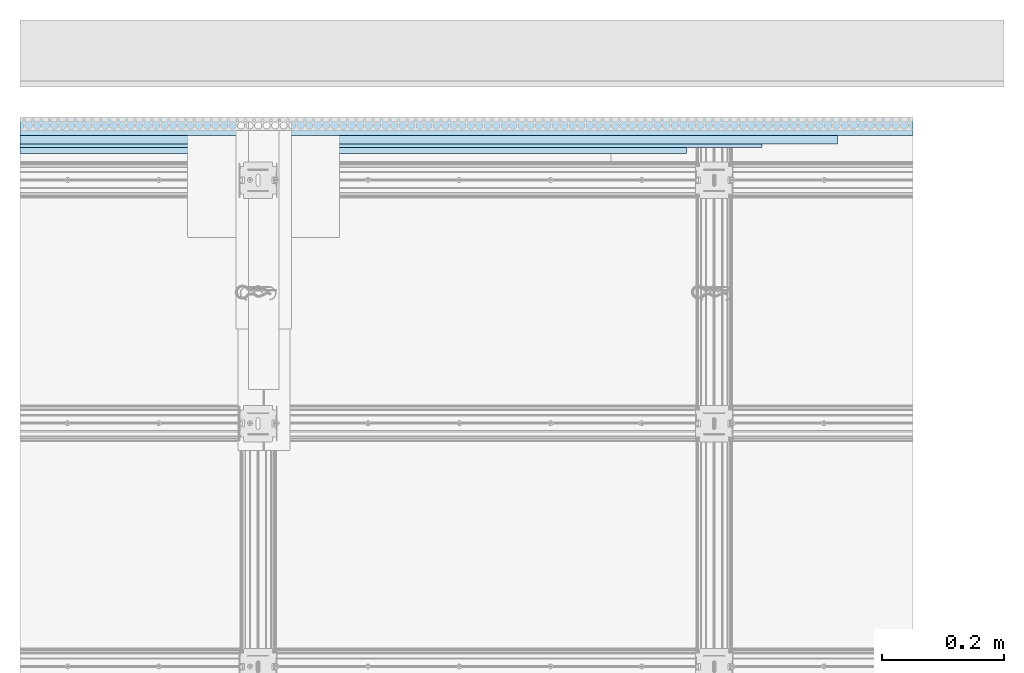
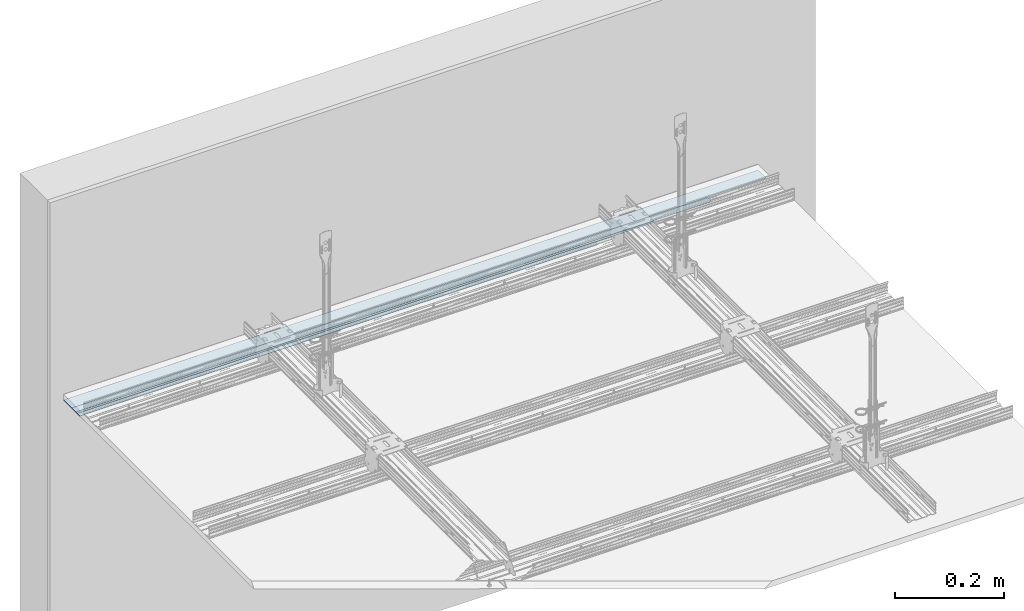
# One storey, part 2 of 34: 4 slabs.
"""IFC2X3 building model written with IfcOpenShell, lengths in millimetres."""

from ifc_helpers import new_model, entity, si_unit, converted_unit, direction, frame, origin, origin_with_axes, place, context, project, spatial, faceted_brep, element, save


model = new_model("IFC2X3")

# Units and contexts
model_context = context("Model", 3, precision=1e-05, world=origin(), true_north=direction((0.0, 1.0, 0.0)))
ifc_project = project(units=[si_unit("LENGTHUNIT", "METRE", prefix="MILLI"), si_unit("AREAUNIT", "SQUARE_METRE"), si_unit("VOLUMEUNIT", "CUBIC_METRE"), converted_unit("PLANEANGLEUNIT", "DEGREE", entity("IfcPlaneAngleMeasure", 0.01745), si_unit("PLANEANGLEUNIT", "RADIAN"), dimensions=[0, 0, 0, 0, 0, 0, 0]), si_unit("SOLIDANGLEUNIT", "STERADIAN"), si_unit("MASSUNIT", "GRAM"), si_unit("TIMEUNIT", "SECOND"), si_unit("THERMODYNAMICTEMPERATUREUNIT", "DEGREE_CELSIUS"), si_unit("LUMINOUSINTENSITYUNIT", "LUMEN")], contexts=[model_context])

# Site, building, storey
site_placement = place(None, origin_with_axes())
site = spatial("IfcSite", under=ifc_project, at=site_placement, Name="Default Site", CompositionType="ELEMENT")
building_placement = place(site_placement, origin_with_axes())
building = spatial("IfcBuilding", under=site, at=building_placement, Name="Default Building", CompositionType="ELEMENT")
storey_placement = place(building_placement, origin_with_axes())
storey = spatial("IfcBuildingStorey", under=building, at=storey_placement, Name="Default Building Storey", CompositionType="ELEMENT", Elevation=0.0)

# Slabs
slab_1_placement = place(storey_placement, frame((2969.960539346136, 2695.285746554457, 4101.553135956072), z_axis=(1.0, 9.963675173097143e-14, -2.65740110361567e-12), x_axis=(-1.533495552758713e-13, 1.0, 2.78446504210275e-12)))
element("IfcSlab", 1, at=slab_1_placement, inside=storey, Name="Taśma spoinowa RIGIPS", context=model_context, shape_type="Brep", body=[
    faceted_brep([(-712.4592163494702, -3120.63617230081, 374.8940238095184), (-712.4592163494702, -3120.820299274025, 374.8940238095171), (-762.45921634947, -3120.820299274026, 374.8940238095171), (-762.45921634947, -3120.636172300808, 374.8940238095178), (-712.4592163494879, -3120.820299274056, -844.9354058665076), (-712.4592163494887, -3120.636172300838, -844.9354058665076), (-762.4592163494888, -3120.636172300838, -844.9354058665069), (-762.4592163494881, -3120.820299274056, -844.9354058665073)], [[[0, 1, 2, 3]], [[4, 5, 6, 7]], [[5, 0, 3, 6]], [[6, 3, 2, 7]], [[7, 2, 1, 4]], [[4, 1, 0, 5]]]),
])
slab_2_placement = place(storey_placement, frame((2865.999492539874, 2695.285746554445, 4101.737262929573), z_axis=(1.0, 9.987871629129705e-14, -2.657623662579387e-12), x_axis=(-1.533495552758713e-13, 1.0, 2.78446504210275e-12)))
element("IfcSlab", 2, at=slab_2_placement, inside=storey, Name="Dedykowana masa szpachlowa Rigips - konstrukcyjna", context=model_context, shape_type="Brep", body=[
    faceted_brep([(-742.4592163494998, -3120.544108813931, -740.9743590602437), (-742.4592163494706, -3120.544108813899, 602.9480981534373), (-742.4592163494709, -3120.359981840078, 602.9480981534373), (-742.4592163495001, -3120.359981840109, -740.9743590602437), (-757.4592163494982, -3120.359981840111, -740.9743590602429), (-757.4592163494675, -3120.359981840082, 602.9480981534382), (-712.4592163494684, -3120.544108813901, 602.9480981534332), (-712.4592163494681, -3120.820299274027, 602.9480981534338), (-757.4592163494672, -3120.820299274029, 602.9480981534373), (-712.4592163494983, -3120.820299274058, -740.9743590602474), (-712.4592163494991, -3120.54410881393, -740.9743590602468), (-757.4592163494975, -3120.820299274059, -740.9743590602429)], [[[0, 1, 2, 3]], [[4, 3, 2, 5]], [[6, 7, 8, 5, 2, 1]], [[9, 10, 0, 3, 4, 11]], [[6, 1, 0, 10]], [[11, 4, 5, 8]], [[11, 8, 7, 9]], [[9, 7, 6, 10]]]),
])
slab_3_placement = place(storey_placement, frame((2906.719840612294, 2695.285746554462, 4101.369008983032), z_axis=(1.0, 9.982569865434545e-14, -2.658095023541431e-12), x_axis=(-1.533495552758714e-13, 1.0, 2.784465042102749e-12)))
element("IfcSlab", 3, at=slab_3_placement, inside=storey, Name="Dedykowana masa szpachlowa Rigips - konstrukcyjna", context=model_context, shape_type="Brep", body=[
    faceted_brep([(-762.4592163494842, -3120.636172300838, -781.6947071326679), (-762.4592163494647, -3120.636172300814, 314.0416950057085), (-762.4592163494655, -3119.991727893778, 314.0416950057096), (-762.4592163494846, -3119.991727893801, -781.6947071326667), (-772.4592163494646, -3119.991727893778, 314.0416950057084), (-772.4592163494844, -3119.991727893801, -781.6947071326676), (-712.4592163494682, -3120.636172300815, 314.0416950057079), (-712.4592163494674, -3120.820299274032, 314.0416950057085), (-772.4592163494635, -3120.820299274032, 314.0416950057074), (-712.4592163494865, -3120.820299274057, -781.6947071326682), (-712.4592163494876, -3120.636172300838, -781.6947071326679), (-772.459216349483, -3120.820299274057, -781.6947071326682)], [[[0, 1, 2, 3]], [[2, 4, 5, 3]], [[6, 7, 8, 4, 2, 1]], [[9, 10, 0, 3, 5, 11]], [[0, 10, 6, 1]], [[4, 8, 11, 5]], [[11, 8, 7, 9]], [[9, 7, 6, 10]]]),
])
slab_4_placement = place(storey_placement, frame((3468.947590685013, 1932.526530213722, 981.1010906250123), z_axis=(1.935951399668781e-15, 1.0, 2.785103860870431e-12), x_axis=(1.0, -9.394034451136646e-16, -2.737324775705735e-12)))
element("IfcSlab", 4, at=slab_4_placement, inside=storey, Name="Dedykowana masa szpachlowa Rigips - konstrukcyjna", context=model_context, shape_type="Brep", body=[
    faceted_brep([(124.0930275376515, 0.0, 19.99999999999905), (-1343.922457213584, 1.262771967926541e-11, 19.99999999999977), (-1343.922457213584, -0.1841269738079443, 20.00000000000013), (124.093027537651, -0.1841269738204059, 19.99999999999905), (124.0930275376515, 1.661542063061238e-13, 49.99999999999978), (124.093027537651, -0.1841269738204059, 49.99999999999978), (-1343.922457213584, 1.262771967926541e-11, 50.0000000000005), (-1343.922457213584, -0.1841269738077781, 50.00000000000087)], [[[0, 1, 2, 3]], [[4, 0, 3, 5]], [[6, 4, 5, 7]], [[1, 6, 7, 2]], [[2, 7, 5, 3]], [[6, 1, 0, 4]]]),
])

save(model, "model.ifc")
